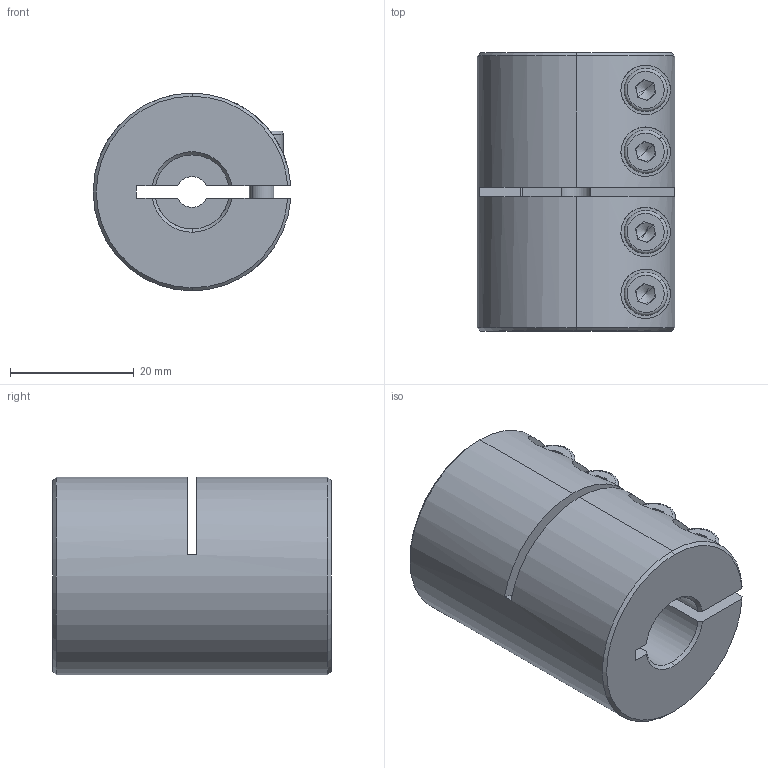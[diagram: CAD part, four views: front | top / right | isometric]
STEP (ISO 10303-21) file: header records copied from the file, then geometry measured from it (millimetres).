
FILE_DESCRIPTION (( 'STEP AP214' ), '1' );
FILE_NAME ('LL-B-D32L45-5-12½¨Ä£.STEP', '2022-07-21T06:24:05', ( '' ), ( '' ), 'SwSTEP 2.0', 'SolidWorks 2022', '' );
FILE_SCHEMA (( 'AUTOMOTIVE_DESIGN' ));
Length unit declared in the file: millimetre
Products named in the file (1): LL-B-D32L45-5-12膘耀
Bounding box: 31.97 x 45 x 32 mm (x, y, z)
Volume: 30640.4 mm3; surface area: 10812 mm2
Topology: 1 solids, 1 shells, 193 faces, 492 edges, 309 vertices
Faces by surface type: plane 88, cylinder 77, cone 20, torus 8
Entity records: 6357 total; most frequent: CARTESIAN_POINT 1583, DIRECTION 1037, ORIENTED_EDGE 968, EDGE_CURVE 484, AXIS2_PLACEMENT_3D 403, VERTEX_POINT 309, VECTOR 231, LINE 231
